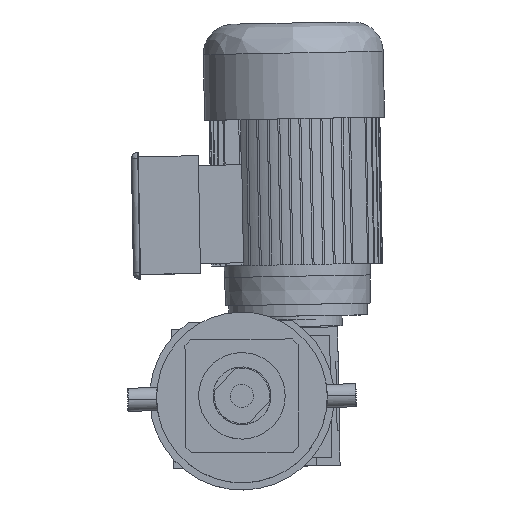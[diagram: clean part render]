
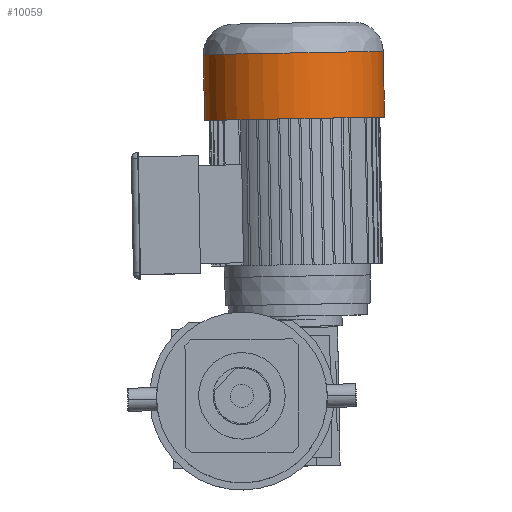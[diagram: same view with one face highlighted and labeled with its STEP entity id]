
A CAD part, top view. The second image highlights one B-rep face of the part: STEP entity #10059.
In plain terms, the highlighted cylindrical face has radius 78 mm (diameter 156 mm), a partial arc.
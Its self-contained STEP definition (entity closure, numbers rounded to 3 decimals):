
#23 = CARTESIAN_POINT ( 'NONE',  ( 0., 0., -183.5 ) ) ;
#1402 = VERTEX_POINT ( 'NONE', #35244 ) ;
#3007 = DIRECTION ( 'NONE',  ( 0., 1., 0. ) ) ;
#3485 = CIRCLE ( 'NONE', #32878, 78. ) ;
#3871 = DIRECTION ( 'NONE',  ( 0., 1., 0. ) ) ;
#4269 = CARTESIAN_POINT ( 'NONE',  ( 0., 78., -126.5 ) ) ;
#6856 = CIRCLE ( 'NONE', #6914, 78. ) ;
#6914 = AXIS2_PLACEMENT_3D ( 'NONE', #31561, #14269, #34420 ) ;
#7689 = DIRECTION ( 'NONE',  ( 0., 0., -1. ) ) ;
#8016 = CARTESIAN_POINT ( 'NONE',  ( 0., 78., -209.5 ) ) ;
#10059 = ADVANCED_FACE ( 'NONE', ( #12810 ), #24615, .T. ) ;
#12187 = ORIENTED_EDGE ( 'NONE', *, *, #26788, .T. ) ;
#12732 = VERTEX_POINT ( 'NONE', #4269 ) ;
#12810 = FACE_OUTER_BOUND ( 'NONE', #24970, .T. ) ;
#13398 = VECTOR ( 'NONE', #7689, 1000. ) ;
#13655 = EDGE_CURVE ( 'NONE', #12732, #16646, #19429, .T. ) ;
#14269 = DIRECTION ( 'NONE',  ( 0., 0., -1. ) ) ;
#14309 = EDGE_CURVE ( 'NONE', #19661, #16646, #3485, .T. ) ;
#14592 = EDGE_CURVE ( 'NONE', #1402, #19661, #21109, .T. ) ;
#16301 = CARTESIAN_POINT ( 'NONE',  ( 0., -78., -209.5 ) ) ;
#16646 = VERTEX_POINT ( 'NONE', #18232 ) ;
#18232 = CARTESIAN_POINT ( 'NONE',  ( 0., 78., -183.5 ) ) ;
#19429 = LINE ( 'NONE', #8016, #34758 ) ;
#19661 = VERTEX_POINT ( 'NONE', #25777 ) ;
#20351 = DIRECTION ( 'NONE',  ( 0., 0., 1. ) ) ;
#20972 = CARTESIAN_POINT ( 'NONE',  ( 0., 0., -209.5 ) ) ;
#21109 = LINE ( 'NONE', #16301, #13398 ) ;
#24532 = ORIENTED_EDGE ( 'NONE', *, *, #13655, .F. ) ;
#24615 = CYLINDRICAL_SURFACE ( 'NONE', #31468, 78. ) ;
#24970 = EDGE_LOOP ( 'NONE', ( #12187, #34326, #34288, #24532 ) ) ;
#25777 = CARTESIAN_POINT ( 'NONE',  ( 0., -78., -183.5 ) ) ;
#26788 = EDGE_CURVE ( 'NONE', #12732, #1402, #6856, .T. ) ;
#28178 = DIRECTION ( 'NONE',  ( 0., 0., -1. ) ) ;
#29669 = DIRECTION ( 'NONE',  ( 0., 0., -1. ) ) ;
#31468 = AXIS2_PLACEMENT_3D ( 'NONE', #20972, #29669, #3871 ) ;
#31561 = CARTESIAN_POINT ( 'NONE',  ( 0., 0., -126.5 ) ) ;
#32878 = AXIS2_PLACEMENT_3D ( 'NONE', #23, #20351, #3007 ) ;
#34288 = ORIENTED_EDGE ( 'NONE', *, *, #14309, .T. ) ;
#34326 = ORIENTED_EDGE ( 'NONE', *, *, #14592, .T. ) ;
#34420 = DIRECTION ( 'NONE',  ( 0., 1., 0. ) ) ;
#34758 = VECTOR ( 'NONE', #28178, 1000. ) ;
#35244 = CARTESIAN_POINT ( 'NONE',  ( 0., -78., -126.5 ) ) ;
